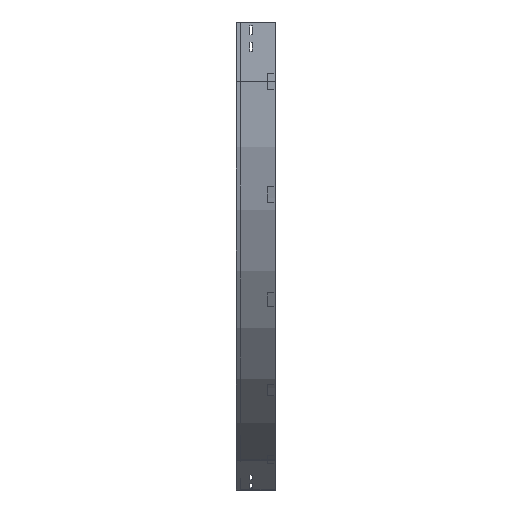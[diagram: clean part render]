
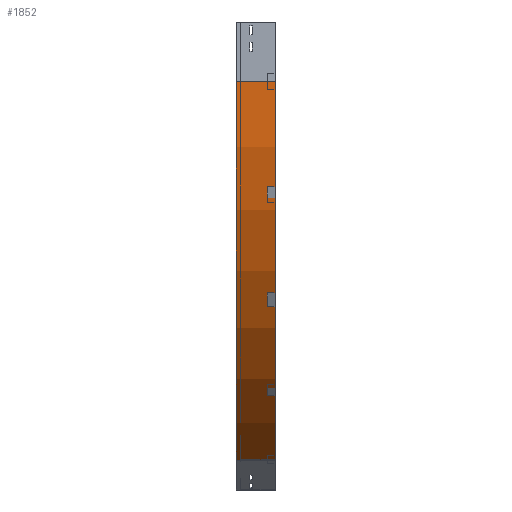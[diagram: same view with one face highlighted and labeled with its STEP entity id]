
A CAD part, left-side view. The second image highlights one B-rep face of the part: STEP entity #1852.
In plain terms, the highlighted cylindrical face has radius 1100 mm (diameter 2200 mm), a partial arc.
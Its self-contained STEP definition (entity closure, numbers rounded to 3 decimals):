
#189 = DIRECTION ( 'NONE',  ( 0., -1., 0. ) ) ;
#200 = DIRECTION ( 'NONE',  ( 0., -1., 0. ) ) ;
#207 = VECTOR ( 'NONE', #1894, 1000. ) ;
#210 = CARTESIAN_POINT ( 'NONE',  ( 0., 100., -150. ) ) ;
#523 = CARTESIAN_POINT ( 'NONE',  ( 550., 0., -1102.628 ) ) ;
#670 = DIRECTION ( 'NONE',  ( -1., 0., 0. ) ) ;
#915 = EDGE_CURVE ( 'NONE', #1833, #2831, #1657, .T. ) ;
#936 = LINE ( 'NONE', #2213, #207 ) ;
#965 = EDGE_CURVE ( 'NONE', #2201, #1833, #3258, .T. ) ;
#1156 = AXIS2_PLACEMENT_3D ( 'NONE', #1677, #189, #2253 ) ;
#1179 = ORIENTED_EDGE ( 'NONE', *, *, #3431, .F. ) ;
#1208 = CARTESIAN_POINT ( 'NONE',  ( 550., 0., -1102.628 ) ) ;
#1244 = EDGE_CURVE ( 'NONE', #2201, #1685, #936, .T. ) ;
#1263 = ORIENTED_EDGE ( 'NONE', *, *, #1244, .F. ) ;
#1407 = DIRECTION ( 'NONE',  ( 0., -1., 0. ) ) ;
#1565 = AXIS2_PLACEMENT_3D ( 'NONE', #1927, #3086, #670 ) ;
#1657 = LINE ( 'NONE', #523, #3390 ) ;
#1677 = CARTESIAN_POINT ( 'NONE',  ( 1100., 100., -150. ) ) ;
#1685 = VERTEX_POINT ( 'NONE', #3681 ) ;
#1833 = VERTEX_POINT ( 'NONE', #2857 ) ;
#1852 = ADVANCED_FACE ( 'NONE', ( #3143 ), #2538, .T. ) ;
#1894 = DIRECTION ( 'NONE',  ( 0., -1., 0. ) ) ;
#1927 = CARTESIAN_POINT ( 'NONE',  ( 1100., 0., -150. ) ) ;
#1947 = CARTESIAN_POINT ( 'NONE',  ( 1100., 0., -150. ) ) ;
#2201 = VERTEX_POINT ( 'NONE', #210 ) ;
#2209 = EDGE_LOOP ( 'NONE', ( #1179, #1263, #2846, #3403 ) ) ;
#2213 = CARTESIAN_POINT ( 'NONE',  ( 0., 0., -150. ) ) ;
#2253 = DIRECTION ( 'NONE',  ( -1., 0., 0. ) ) ;
#2538 = CYLINDRICAL_SURFACE ( 'NONE', #2573, 1100. ) ;
#2573 = AXIS2_PLACEMENT_3D ( 'NONE', #1947, #200, #3124 ) ;
#2831 = VERTEX_POINT ( 'NONE', #1208 ) ;
#2846 = ORIENTED_EDGE ( 'NONE', *, *, #965, .T. ) ;
#2857 = CARTESIAN_POINT ( 'NONE',  ( 550., 100., -1102.628 ) ) ;
#3086 = DIRECTION ( 'NONE',  ( 0., -1., 0. ) ) ;
#3124 = DIRECTION ( 'NONE',  ( 0., 0., -1. ) ) ;
#3143 = FACE_OUTER_BOUND ( 'NONE', #2209, .T. ) ;
#3258 = CIRCLE ( 'NONE', #1156, 1100. ) ;
#3390 = VECTOR ( 'NONE', #1407, 1000. ) ;
#3403 = ORIENTED_EDGE ( 'NONE', *, *, #915, .T. ) ;
#3431 = EDGE_CURVE ( 'NONE', #1685, #2831, #3493, .T. ) ;
#3493 = CIRCLE ( 'NONE', #1565, 1100. ) ;
#3681 = CARTESIAN_POINT ( 'NONE',  ( 0., 0., -150. ) ) ;
